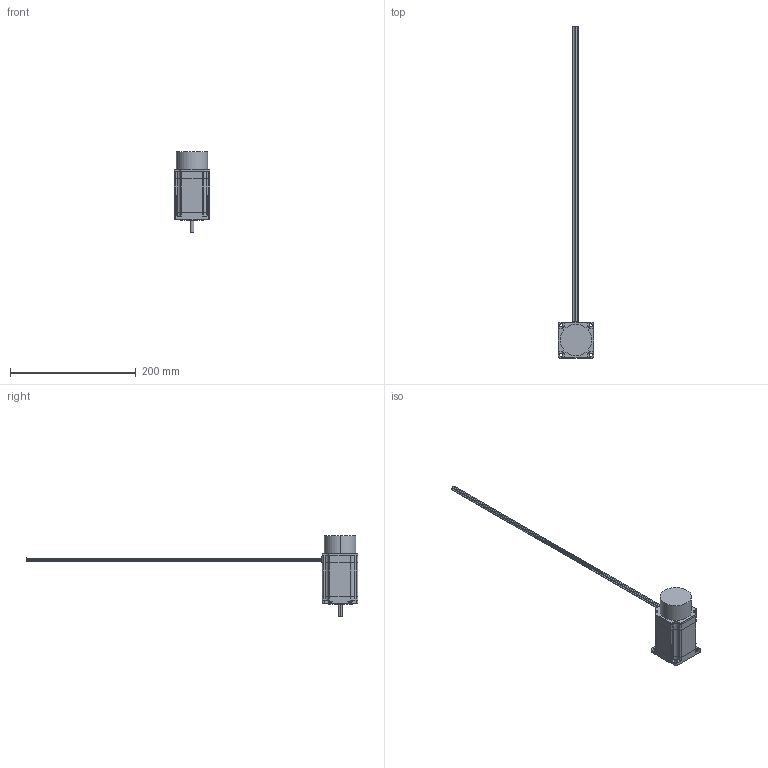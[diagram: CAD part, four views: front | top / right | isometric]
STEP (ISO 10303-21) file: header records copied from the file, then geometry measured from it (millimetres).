
FILE_DESCRIPTION (( 'STEP AP214' ), '1' );
FILE_NAME ('JK57HS76-3008FBK2.STEP', '2020-12-15T06:58:39', ( 'user' ), ( 'CHINA' ), 'SwSTEP 2.0', 'SolidWorks 2016', '' );
FILE_SCHEMA (( 'AUTOMOTIVE_DESIGN' ));
Length unit declared in the file: millimetre
Products named in the file (8): JK.006.057.001B; 6.35｡ﾁ21-5.85｡ﾁ15; JK57HS76-3008FBK2; BK价陬; 57-53 隅赽; M3｡ﾁ35; 8盄470; JK.006.057.001F
Assembly tree (10 placements, depth 2):
  JK57HS76-3008FBK2
    6.35｡ﾁ21-5.85｡ﾁ15
    JK.006.057.001B
    JK.006.057.001F
    8盄470
    M3｡ﾁ35  x4
    57-53 隅赽
    BK价陬
Bounding box: 57 x 528 x 128.4 mm (x, y, z)
Volume: 220109.1 mm3; surface area: 84835.3 mm2
Topology: 10 solids, 10 shells, 917 faces, 2574 edges, 1704 vertices
Faces by surface type: cylinder 708, plane 189, bspline 12, torus 8
Entity records: 21295 total; most frequent: CARTESIAN_POINT 10703, ORIENTED_EDGE 2250, DIRECTION 1959, EDGE_CURVE 1125, VERTEX_POINT 747, AXIS2_PLACEMENT_3D 694, LINE 571, VECTOR 571
